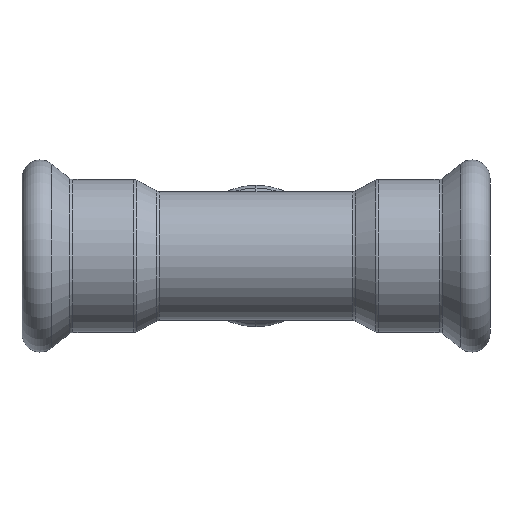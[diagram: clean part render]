
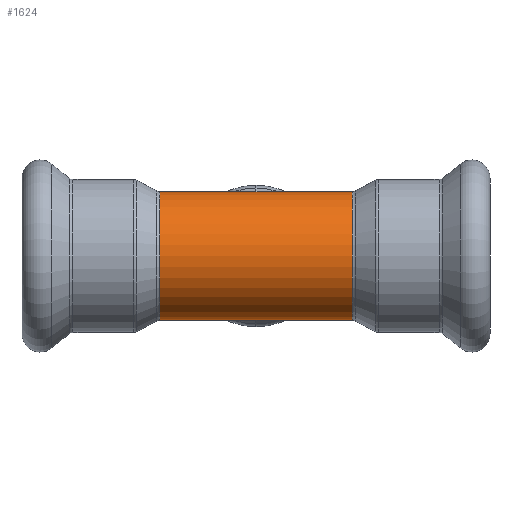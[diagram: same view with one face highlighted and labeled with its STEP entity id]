
A CAD part, front view. The second image highlights one B-rep face of the part: STEP entity #1624.
In plain terms, the highlighted cylindrical face has radius 10.6 mm (diameter 21.2 mm), a partial arc.
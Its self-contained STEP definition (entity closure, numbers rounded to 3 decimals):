
#150 = EDGE_CURVE ( 'NONE', #2207, #1016, #603, .T. ) ;
#190 = ORIENTED_EDGE ( 'NONE', *, *, #3337, .T. ) ;
#231 = CARTESIAN_POINT ( 'NONE',  ( 15.877, 0., 0. ) ) ;
#281 = DIRECTION ( 'NONE',  ( -1., 0., 0. ) ) ;
#338 = VERTEX_POINT ( 'NONE', #1350 ) ;
#514 = EDGE_CURVE ( 'NONE', #1016, #338, #2249, .T. ) ;
#603 = CIRCLE ( 'NONE', #3767, 10.6 ) ;
#684 = DIRECTION ( 'NONE',  ( 0., 0., 1. ) ) ;
#806 = CARTESIAN_POINT ( 'NONE',  ( 15.877, 0., 10.6 ) ) ;
#1016 = VERTEX_POINT ( 'NONE', #806 ) ;
#1078 = ORIENTED_EDGE ( 'NONE', *, *, #150, .T. ) ;
#1159 = CARTESIAN_POINT ( 'NONE',  ( 15.877, 0., -10.6 ) ) ;
#1162 = CARTESIAN_POINT ( 'NONE',  ( -15.877, 0., -10.6 ) ) ;
#1300 = AXIS2_PLACEMENT_3D ( 'NONE', #2014, #2630, #684 ) ;
#1350 = CARTESIAN_POINT ( 'NONE',  ( -15.877, 0., 10.6 ) ) ;
#1467 = VECTOR ( 'NONE', #2225, 1000. ) ;
#1534 = DIRECTION ( 'NONE',  ( -1., 0., 0. ) ) ;
#1624 = ADVANCED_FACE ( 'NONE', ( #1949 ), #3596, .T. ) ;
#1918 = LINE ( 'NONE', #3244, #3586 ) ;
#1949 = FACE_OUTER_BOUND ( 'NONE', #3487, .T. ) ;
#2014 = CARTESIAN_POINT ( 'NONE',  ( -15.877, 0., 0. ) ) ;
#2207 = VERTEX_POINT ( 'NONE', #1159 ) ;
#2225 = DIRECTION ( 'NONE',  ( -1., 0., 0. ) ) ;
#2249 = LINE ( 'NONE', #3545, #1467 ) ;
#2534 = EDGE_CURVE ( 'NONE', #2207, #3565, #1918, .T. ) ;
#2630 = DIRECTION ( 'NONE',  ( 1., 0., 0. ) ) ;
#2937 = CARTESIAN_POINT ( 'NONE',  ( 0., 0., 0. ) ) ;
#3022 = ORIENTED_EDGE ( 'NONE', *, *, #514, .T. ) ;
#3093 = CIRCLE ( 'NONE', #1300, 10.6 ) ;
#3205 = DIRECTION ( 'NONE',  ( 0., 0., 1. ) ) ;
#3243 = DIRECTION ( 'NONE',  ( -1., 0., 0. ) ) ;
#3244 = CARTESIAN_POINT ( 'NONE',  ( 0., 0., -10.6 ) ) ;
#3337 = EDGE_CURVE ( 'NONE', #338, #3565, #3093, .T. ) ;
#3487 = EDGE_LOOP ( 'NONE', ( #3716, #1078, #3022, #190 ) ) ;
#3545 = CARTESIAN_POINT ( 'NONE',  ( 0., 0., 10.6 ) ) ;
#3565 = VERTEX_POINT ( 'NONE', #1162 ) ;
#3586 = VECTOR ( 'NONE', #281, 1000. ) ;
#3596 = CYLINDRICAL_SURFACE ( 'NONE', #4038, 10.6 ) ;
#3716 = ORIENTED_EDGE ( 'NONE', *, *, #2534, .F. ) ;
#3767 = AXIS2_PLACEMENT_3D ( 'NONE', #231, #3243, #3205 ) ;
#3946 = DIRECTION ( 'NONE',  ( 0., 0., 1. ) ) ;
#4038 = AXIS2_PLACEMENT_3D ( 'NONE', #2937, #1534, #3946 ) ;
